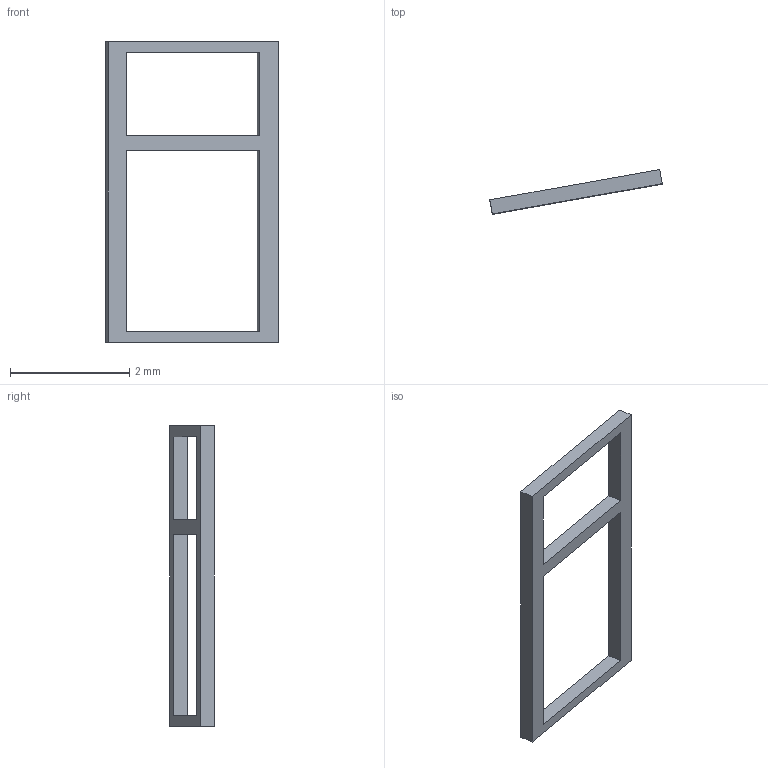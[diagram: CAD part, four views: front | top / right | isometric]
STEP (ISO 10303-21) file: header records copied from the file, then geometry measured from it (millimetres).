
FILE_DESCRIPTION(('FreeCAD Model'),'2;1');
FILE_NAME('Open CASCADE Shape Model','2026-10-23T21:15:57',('FreeCAD'),( 'FreeCAD'),'Open CASCADE STEP processor 7.8','FreeCAD','Unknown');
FILE_SCHEMA(('AUTOMOTIVE_DESIGN { 1 0 10303 214 1 1 1 1 }'));
Length unit declared in the file: millimetre
Products named in the file (1): Open CASCADE STEP translator 7.8 10
Bounding box: 2.9 x 0.74 x 5.05 mm (x, y, z)
Volume: 1.1 mm3; surface area: 17.2 mm2
Topology: 1 solids, 1 shells, 14 faces, 36 edges, 24 vertices
Faces by surface type: plane 14
Entity records: 438 total; most frequent: CARTESIAN_POINT 75, ORIENTED_EDGE 72, DIRECTION 66, EDGE_CURVE 36, LINE 36, VECTOR 36, VERTEX_POINT 24, FACE_BOUND 18
